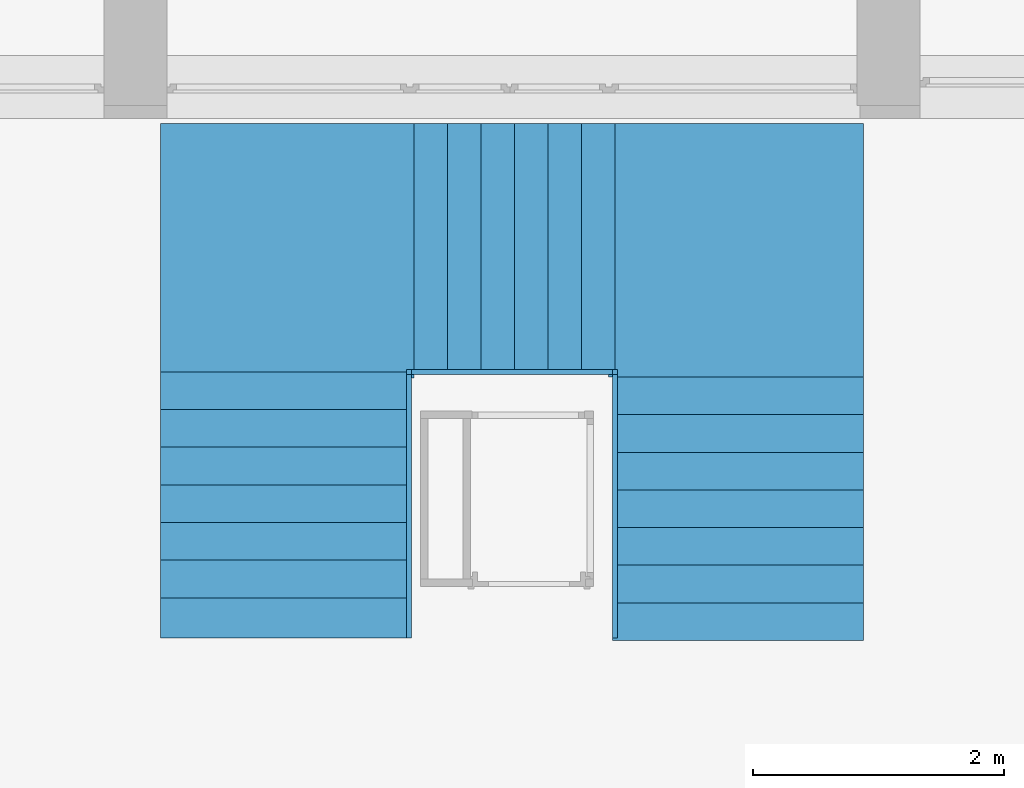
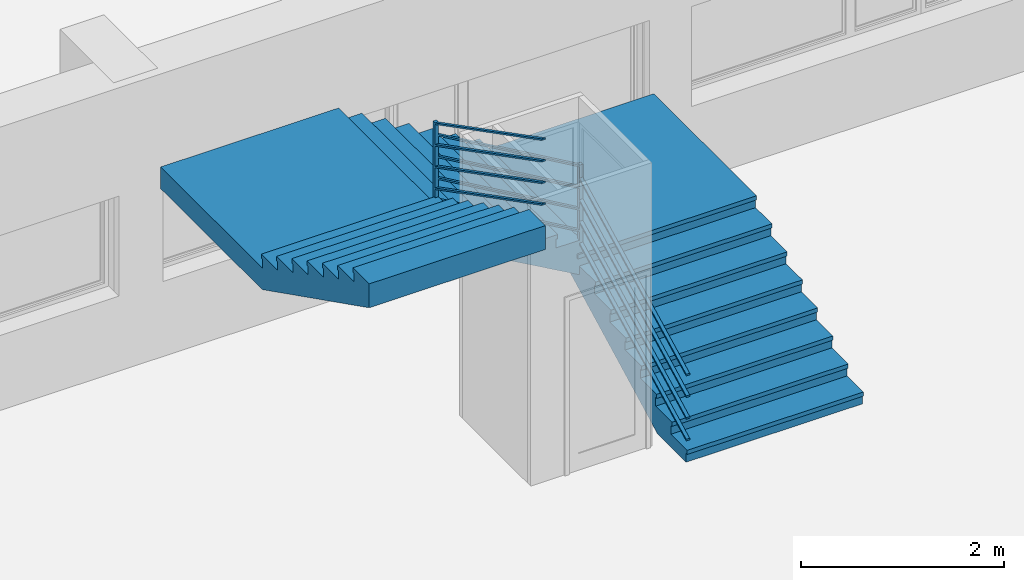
# One storey, part 28 of 36: 1 stair.
"""IFC2X3 building model written with IfcOpenShell, lengths in millimetres."""

from ifc_helpers import new_model, entity, si_unit, converted_unit, money_unit, direction, frame, origin_with_axes, place, context, subcontext, project, spatial, faceted_brep, material, element, save


model = new_model("IFC2X3")

# Units and contexts
model_context = context("Model", 3, precision=1e-05, world=origin_with_axes(), true_north=direction((0.0, 1.0)))
body_context = subcontext(model_context, "Body", "Model", "MODEL_VIEW")
ifc_project = project(units=[si_unit("LENGTHUNIT", "METRE", prefix="MILLI"), si_unit("AREAUNIT", "SQUARE_METRE"), si_unit("VOLUMEUNIT", "CUBIC_METRE"), converted_unit("PLANEANGLEUNIT", "DEGREE", entity("IfcPlaneAngleMeasure", 0.0174532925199), si_unit("PLANEANGLEUNIT", "RADIAN"), dimensions=[0, 0, 0, 0, 0, 0, 0]), si_unit("SOLIDANGLEUNIT", "STERADIAN"), money_unit("USD"), converted_unit("TIMEUNIT", "Year", entity("IfcTimeMeasure", 31556926.0), si_unit("TIMEUNIT", "SECOND"), dimensions=[0, 0, 0, 0, 0, 0, 0]), si_unit("MASSUNIT", "GRAM"), si_unit("THERMODYNAMICTEMPERATUREUNIT", "DEGREE_CELSIUS"), si_unit("LUMINOUSINTENSITYUNIT", "LUMEN")], contexts=[model_context])

# Site, building, storey
site_placement = place(None, origin_with_axes())
site = spatial("IfcSite", under=ifc_project, at=site_placement, Name="Site", CompositionType="ELEMENT")
building_placement = place(site_placement, origin_with_axes())
building = spatial("IfcBuilding", under=site, at=building_placement, Name="Building", CompositionType="ELEMENT")
storey_placement = place(building_placement, frame((0.0, 0.0, -3400.0), z_axis=(0.0, 0.0, 1.0), x_axis=(1.0, 0.0, 0.0)))
storey = spatial("IfcBuildingStorey", under=building, at=storey_placement, Name="1KORRUS", CompositionType="ELEMENT", Elevation=-3400.0)

# Stair
ifc_material = material(Name="25 %")
stair_placement = place(storey_placement, frame((-6340.29670331, -9280.64352695, 0.0), z_axis=(0.0, 0.0, 1.0), x_axis=(1.0, 0.0, 0.0)))
element("IfcStair", 1, at=stair_placement, inside=storey, material=ifc_material, Name="TRE3", ObjectType="TRE3", ShapeType="NOTDEFINED", context=body_context, shape_type="Brep", body=[
    faceted_brep([(0.0, 567.739, 0.0), (-2000.0, 567.739, 0.0), (-2000.0, 2450.912, 976.364), (0.0, 2450.912, 976.364), (0.0, 30.0, 0.0), (-2000.0, 30.0, 0.0), (-2000.0, 30.0, 104.545), (-2000.0, 330.0, 104.545), (-2000.0, 330.0, 259.091), (-2000.0, 630.0, 259.091), (-2000.0, 630.0, 413.636), (-2000.0, 930.0, 413.636), (-2000.0, 930.0, 568.182), (-2000.0, 1230.0, 568.182), (-2000.0, 1230.0, 722.727), (-2000.0, 1530.0, 722.727), (-2000.0, 1530.0, 877.273), (-2000.0, 1830.0, 877.273), (-2000.0, 1830.0, 1031.818), (-2000.0, 2130.0, 1031.818), (-2000.0, 2130.0, 976.364), (0.0, 2130.0, 976.364), (0.0, 2130.0, 1031.818), (0.0, 1830.0, 1031.818), (0.0, 1830.0, 877.273), (0.0, 1530.0, 877.273), (0.0, 1530.0, 722.727), (0.0, 1230.0, 722.727), (0.0, 1230.0, 568.182), (0.0, 930.0, 568.182), (0.0, 930.0, 413.636), (0.0, 630.0, 413.636), (0.0, 630.0, 259.091), (0.0, 330.0, 259.091), (0.0, 330.0, 104.545), (0.0, 30.0, 104.545)], [[[0, 1, 2, 3]], [[4, 5, 1, 0]], [[1, 5, 6, 7, 8, 9, 10, 11, 12, 13, 14, 15, 16, 17, 18, 19, 20, 2]], [[3, 2, 20, 21]], [[0, 3, 21, 22, 23, 24, 25, 26, 27, 28, 29, 30, 31, 32, 33, 34, 35, 4]], [[35, 6, 5, 4]], [[34, 7, 6, 35]], [[33, 8, 7, 34]], [[32, 9, 8, 33]], [[31, 10, 9, 32]], [[30, 11, 10, 31]], [[29, 12, 11, 30]], [[28, 13, 12, 29]], [[27, 14, 13, 28]], [[26, 15, 14, 27]], [[25, 16, 15, 26]], [[24, 17, 16, 25]], [[23, 18, 17, 24]], [[22, 19, 18, 23]], [[21, 20, 19, 22]]]),
    faceted_brep([(0.0, 0.0, 0.0), (-2000.0, 0.0, 0.0), (-2000.0, 30.0, 0.0), (0.0, 30.0, 0.0), (0.0, 0.0, 104.545), (-2000.0, 0.0, 104.545), (-2000.0, 30.0, 104.545), (0.0, 30.0, 104.545)], [[[0, 1, 2, 3]], [[4, 5, 1, 0]], [[1, 5, 6, 2]], [[3, 2, 6, 7]], [[0, 3, 7, 4]], [[7, 6, 5, 4]]]),
    faceted_brep([(0.0, 300.0, 154.545), (-2000.0, 300.0, 154.545), (-2000.0, 330.0, 154.545), (0.0, 330.0, 154.545), (0.0, 300.0, 259.091), (-2000.0, 300.0, 259.091), (-2000.0, 330.0, 259.091), (0.0, 330.0, 259.091)], [[[0, 1, 2, 3]], [[4, 5, 1, 0]], [[1, 5, 6, 2]], [[3, 2, 6, 7]], [[0, 3, 7, 4]], [[7, 6, 5, 4]]]),
    faceted_brep([(0.0, 600.0, 309.091), (-2000.0, 600.0, 309.091), (-2000.0, 630.0, 309.091), (0.0, 630.0, 309.091), (0.0, 600.0, 413.636), (-2000.0, 600.0, 413.636), (-2000.0, 630.0, 413.636), (0.0, 630.0, 413.636)], [[[0, 1, 2, 3]], [[4, 5, 1, 0]], [[1, 5, 6, 2]], [[3, 2, 6, 7]], [[0, 3, 7, 4]], [[7, 6, 5, 4]]]),
    faceted_brep([(0.0, 900.0, 463.636), (-2000.0, 900.0, 463.636), (-2000.0, 930.0, 463.636), (0.0, 930.0, 463.636), (0.0, 900.0, 568.182), (-2000.0, 900.0, 568.182), (-2000.0, 930.0, 568.182), (0.0, 930.0, 568.182)], [[[0, 1, 2, 3]], [[4, 5, 1, 0]], [[1, 5, 6, 2]], [[3, 2, 6, 7]], [[0, 3, 7, 4]], [[7, 6, 5, 4]]]),
    faceted_brep([(0.0, 1200.0, 618.182), (-2000.0, 1200.0, 618.182), (-2000.0, 1230.0, 618.182), (0.0, 1230.0, 618.182), (0.0, 1200.0, 722.727), (-2000.0, 1200.0, 722.727), (-2000.0, 1230.0, 722.727), (0.0, 1230.0, 722.727)], [[[0, 1, 2, 3]], [[4, 5, 1, 0]], [[1, 5, 6, 2]], [[3, 2, 6, 7]], [[0, 3, 7, 4]], [[7, 6, 5, 4]]]),
    faceted_brep([(0.0, 1500.0, 772.727), (-2000.0, 1500.0, 772.727), (-2000.0, 1530.0, 772.727), (0.0, 1530.0, 772.727), (0.0, 1500.0, 877.273), (-2000.0, 1500.0, 877.273), (-2000.0, 1530.0, 877.273), (0.0, 1530.0, 877.273)], [[[0, 1, 2, 3]], [[4, 5, 1, 0]], [[1, 5, 6, 2]], [[3, 2, 6, 7]], [[0, 3, 7, 4]], [[7, 6, 5, 4]]]),
    faceted_brep([(0.0, 1800.0, 927.273), (-2000.0, 1800.0, 927.273), (-2000.0, 1830.0, 927.273), (0.0, 1830.0, 927.273), (0.0, 1800.0, 1031.818), (-2000.0, 1800.0, 1031.818), (-2000.0, 1830.0, 1031.818), (0.0, 1830.0, 1031.818)], [[[0, 1, 2, 3]], [[4, 5, 1, 0]], [[1, 5, 6, 2]], [[3, 2, 6, 7]], [[0, 3, 7, 4]], [[7, 6, 5, 4]]]),
    faceted_brep([(0.0, 2100.0, 1081.818), (-2000.0, 2100.0, 1081.818), (-2000.0, 2130.0, 1081.818), (0.0, 2130.0, 1081.818), (0.0, 2100.0, 1186.364), (-2000.0, 2100.0, 1186.364), (-2000.0, 2130.0, 1186.364), (0.0, 2130.0, 1186.364)], [[[0, 1, 2, 3]], [[4, 5, 1, 0]], [[1, 5, 6, 2]], [[3, 2, 6, 7]], [[0, 3, 7, 4]], [[7, 6, 5, 4]]]),
    faceted_brep([(0.0, 2130.0, 976.364), (0.0, 2130.0, 1031.818), (-2000.0, 2130.0, 1031.818), (-2000.0, 2130.0, 976.364), (0.0, 2450.912, 976.364), (0.0, 2450.912, 1031.818), (0.0, 4100.0, 1031.818), (-2000.0, 4100.0, 1031.818), (-2000.0, 2450.912, 1031.818), (-2000.0, 2450.912, 976.364), (-2000.0, 4100.0, 976.364), (0.0, 4100.0, 976.364)], [[[0, 1, 2, 3]], [[4, 5, 1, 0]], [[1, 5, 6, 7, 8, 2]], [[3, 2, 8, 9]], [[0, 3, 9, 10, 11, 4]], [[11, 6, 5, 4]], [[10, 7, 6, 11]], [[9, 8, 7, 10]]]),
    faceted_brep([(0.0, 2130.0, 1031.818), (0.0, 2130.0, 1186.364), (-2000.0, 2130.0, 1186.364), (-2000.0, 2130.0, 1031.818), (0.0, 4100.0, 1031.818), (0.0, 4100.0, 1186.364), (-2000.0, 4100.0, 1186.364), (-2000.0, 4100.0, 1031.818)], [[[0, 1, 2, 3]], [[4, 5, 1, 0]], [[1, 5, 6, 2]], [[3, 2, 6, 7]], [[0, 3, 7, 4]], [[7, 6, 5, 4]]]),
    faceted_brep([(-3917.578, 4100.0, 2058.182), (-3917.578, 2100.0, 2058.182), (-3630.0, 2100.0, 2058.182), (-3630.0, 4100.0, 2058.182), (-2000.0, 4100.0, 976.364), (-2000.0, 2100.0, 976.364), (-2000.0, 2100.0, 1186.364), (-2030.0, 2100.0, 1186.364), (-2030.0, 2100.0, 1340.909), (-2296.667, 2100.0, 1340.909), (-2296.667, 2100.0, 1495.455), (-2563.333, 2100.0, 1495.455), (-2563.333, 2100.0, 1650.0), (-2830.0, 2100.0, 1650.0), (-2830.0, 2100.0, 1804.545), (-3096.667, 2100.0, 1804.545), (-3096.667, 2100.0, 1959.091), (-3363.333, 2100.0, 1959.091), (-3363.333, 2100.0, 2113.636), (-3630.0, 2100.0, 2113.636), (-3630.0, 4100.0, 2113.636), (-3363.333, 4100.0, 2113.636), (-3363.333, 4100.0, 1959.091), (-3096.667, 4100.0, 1959.091), (-3096.667, 4100.0, 1804.545), (-2830.0, 4100.0, 1804.545), (-2830.0, 4100.0, 1650.0), (-2563.333, 4100.0, 1650.0), (-2563.333, 4100.0, 1495.455), (-2296.667, 4100.0, 1495.455), (-2296.667, 4100.0, 1340.909), (-2030.0, 4100.0, 1340.909), (-2030.0, 4100.0, 1186.364), (-2000.0, 4100.0, 1186.364)], [[[0, 1, 2, 3]], [[4, 5, 1, 0]], [[1, 5, 6, 7, 8, 9, 10, 11, 12, 13, 14, 15, 16, 17, 18, 19, 2]], [[3, 2, 19, 20]], [[0, 3, 20, 21, 22, 23, 24, 25, 26, 27, 28, 29, 30, 31, 32, 33, 4]], [[33, 6, 5, 4]], [[32, 7, 6, 33]], [[31, 8, 7, 32]], [[30, 9, 8, 31]], [[29, 10, 9, 30]], [[28, 11, 10, 29]], [[27, 12, 11, 28]], [[26, 13, 12, 27]], [[25, 14, 13, 26]], [[24, 15, 14, 25]], [[23, 16, 15, 24]], [[22, 17, 16, 23]], [[21, 18, 17, 22]], [[20, 19, 18, 21]]]),
    faceted_brep([(-2000.0, 4100.0, 1236.364), (-2000.0, 2100.0, 1236.364), (-2030.0, 2100.0, 1236.364), (-2030.0, 4100.0, 1236.364), (-2000.0, 4100.0, 1340.909), (-2000.0, 2100.0, 1340.909), (-2030.0, 2100.0, 1340.909), (-2030.0, 4100.0, 1340.909)], [[[0, 1, 2, 3]], [[4, 5, 1, 0]], [[1, 5, 6, 2]], [[3, 2, 6, 7]], [[0, 3, 7, 4]], [[7, 6, 5, 4]]]),
    faceted_brep([(-2266.667, 4100.0, 1390.909), (-2266.667, 2100.0, 1390.909), (-2296.667, 2100.0, 1390.909), (-2296.667, 4100.0, 1390.909), (-2266.667, 4100.0, 1495.455), (-2266.667, 2100.0, 1495.455), (-2296.667, 2100.0, 1495.455), (-2296.667, 4100.0, 1495.455)], [[[0, 1, 2, 3]], [[4, 5, 1, 0]], [[1, 5, 6, 2]], [[3, 2, 6, 7]], [[0, 3, 7, 4]], [[7, 6, 5, 4]]]),
    faceted_brep([(-2533.333, 4100.0, 1545.455), (-2533.333, 2100.0, 1545.455), (-2563.333, 2100.0, 1545.455), (-2563.333, 4100.0, 1545.455), (-2533.333, 4100.0, 1650.0), (-2533.333, 2100.0, 1650.0), (-2563.333, 2100.0, 1650.0), (-2563.333, 4100.0, 1650.0)], [[[0, 1, 2, 3]], [[4, 5, 1, 0]], [[1, 5, 6, 2]], [[3, 2, 6, 7]], [[0, 3, 7, 4]], [[7, 6, 5, 4]]]),
    faceted_brep([(-2800.0, 4100.0, 1700.0), (-2800.0, 2100.0, 1700.0), (-2830.0, 2100.0, 1700.0), (-2830.0, 4100.0, 1700.0), (-2800.0, 4100.0, 1804.545), (-2800.0, 2100.0, 1804.545), (-2830.0, 2100.0, 1804.545), (-2830.0, 4100.0, 1804.545)], [[[0, 1, 2, 3]], [[4, 5, 1, 0]], [[1, 5, 6, 2]], [[3, 2, 6, 7]], [[0, 3, 7, 4]], [[7, 6, 5, 4]]]),
    faceted_brep([(-3066.667, 4100.0, 1854.545), (-3066.667, 2100.0, 1854.545), (-3096.667, 2100.0, 1854.545), (-3096.667, 4100.0, 1854.545), (-3066.667, 4100.0, 1959.091), (-3066.667, 2100.0, 1959.091), (-3096.667, 2100.0, 1959.091), (-3096.667, 4100.0, 1959.091)], [[[0, 1, 2, 3]], [[4, 5, 1, 0]], [[1, 5, 6, 2]], [[3, 2, 6, 7]], [[0, 3, 7, 4]], [[7, 6, 5, 4]]]),
    faceted_brep([(-3333.333, 4100.0, 2009.091), (-3333.333, 2100.0, 2009.091), (-3363.333, 2100.0, 2009.091), (-3363.333, 4100.0, 2009.091), (-3333.333, 4100.0, 2113.636), (-3333.333, 2100.0, 2113.636), (-3363.333, 2100.0, 2113.636), (-3363.333, 4100.0, 2113.636)], [[[0, 1, 2, 3]], [[4, 5, 1, 0]], [[1, 5, 6, 2]], [[3, 2, 6, 7]], [[0, 3, 7, 4]], [[7, 6, 5, 4]]]),
    faceted_brep([(-3600.0, 4100.0, 2163.636), (-3600.0, 2100.0, 2163.636), (-3630.0, 2100.0, 2163.636), (-3630.0, 4100.0, 2163.636), (-3600.0, 4100.0, 2268.182), (-3600.0, 2100.0, 2268.182), (-3630.0, 2100.0, 2268.182), (-3630.0, 4100.0, 2268.182)], [[[0, 1, 2, 3]], [[4, 5, 1, 0]], [[1, 5, 6, 2]], [[3, 2, 6, 7]], [[0, 3, 7, 4]], [[7, 6, 5, 4]]]),
    faceted_brep([(-3630.0, 4100.0, 2058.182), (-3630.0, 4100.0, 2113.636), (-3630.0, 2100.0, 2113.636), (-3630.0, 2100.0, 2058.182), (-3900.0, 4100.0, 2058.182), (-3900.0, 4100.0, 2113.636), (-5600.0, 4100.0, 2113.636), (-5600.0, 2100.0, 2113.636), (-3900.0, 2100.0, 2113.636), (-3900.0, 2100.0, 2058.182), (-5600.0, 2100.0, 2058.182), (-5600.0, 4100.0, 2058.182)], [[[0, 1, 2, 3]], [[4, 5, 1, 0]], [[1, 5, 6, 7, 8, 2]], [[3, 2, 8, 9]], [[0, 3, 9, 10, 11, 4]], [[11, 6, 5, 4]], [[10, 7, 6, 11]], [[9, 8, 7, 10]]]),
    faceted_brep([(-3630.0, 4100.0, 2113.636), (-3630.0, 4100.0, 2268.182), (-3630.0, 2100.0, 2268.182), (-3630.0, 2100.0, 2113.636), (-5600.0, 4100.0, 2113.636), (-5600.0, 4100.0, 2268.182), (-5600.0, 2100.0, 2268.182), (-5600.0, 2100.0, 2113.636)], [[[0, 1, 2, 3]], [[4, 5, 1, 0]], [[1, 5, 6, 2]], [[3, 2, 6, 7]], [[0, 3, 7, 4]], [[7, 6, 5, 4]]]),
    faceted_brep([(-5600.0, 0.0, 3113.773), (-3600.0, 0.0, 3113.773), (-3600.0, 0.0, 3350.0), (-5600.0, 0.0, 3350.0), (-5600.0, 2100.0, 2058.182), (-3600.0, 2100.0, 2058.182), (-3600.0, 2100.0, 2268.182), (-3600.0, 2070.0, 2268.182), (-3600.0, 2070.0, 2422.727), (-3600.0, 1770.0, 2422.727), (-3600.0, 1770.0, 2577.273), (-3600.0, 1470.0, 2577.273), (-3600.0, 1470.0, 2731.818), (-3600.0, 1170.0, 2731.818), (-3600.0, 1170.0, 2886.364), (-3600.0, 870.0, 2886.364), (-3600.0, 870.0, 3040.909), (-3600.0, 570.0, 3040.909), (-3600.0, 570.0, 3195.455), (-3600.0, 270.0, 3195.455), (-3600.0, 270.0, 3350.0), (-5600.0, 270.0, 3350.0), (-5600.0, 270.0, 3195.455), (-5600.0, 570.0, 3195.455), (-5600.0, 570.0, 3040.909), (-5600.0, 870.0, 3040.909), (-5600.0, 870.0, 2886.364), (-5600.0, 1170.0, 2886.364), (-5600.0, 1170.0, 2731.818), (-5600.0, 1470.0, 2731.818), (-5600.0, 1470.0, 2577.273), (-5600.0, 1770.0, 2577.273), (-5600.0, 1770.0, 2422.727), (-5600.0, 2070.0, 2422.727), (-5600.0, 2070.0, 2268.182), (-5600.0, 2100.0, 2268.182)], [[[0, 1, 2, 3]], [[4, 5, 1, 0]], [[1, 5, 6, 7, 8, 9, 10, 11, 12, 13, 14, 15, 16, 17, 18, 19, 20, 2]], [[3, 2, 20, 21]], [[0, 3, 21, 22, 23, 24, 25, 26, 27, 28, 29, 30, 31, 32, 33, 34, 35, 4]], [[35, 6, 5, 4]], [[34, 7, 6, 35]], [[33, 8, 7, 34]], [[32, 9, 8, 33]], [[31, 10, 9, 32]], [[30, 11, 10, 31]], [[29, 12, 11, 30]], [[28, 13, 12, 29]], [[27, 14, 13, 28]], [[26, 15, 14, 27]], [[25, 16, 15, 26]], [[24, 17, 16, 25]], [[23, 18, 17, 24]], [[22, 19, 18, 23]], [[21, 20, 19, 22]]]),
    faceted_brep([(-5600.0, 2100.0, 2318.182), (-3600.0, 2100.0, 2318.182), (-3600.0, 2070.0, 2318.182), (-5600.0, 2070.0, 2318.182), (-5600.0, 2100.0, 2422.727), (-3600.0, 2100.0, 2422.727), (-3600.0, 2070.0, 2422.727), (-5600.0, 2070.0, 2422.727)], [[[0, 1, 2, 3]], [[4, 5, 1, 0]], [[1, 5, 6, 2]], [[3, 2, 6, 7]], [[0, 3, 7, 4]], [[7, 6, 5, 4]]]),
    faceted_brep([(-5600.0, 1800.0, 2472.727), (-3600.0, 1800.0, 2472.727), (-3600.0, 1770.0, 2472.727), (-5600.0, 1770.0, 2472.727), (-5600.0, 1800.0, 2577.273), (-3600.0, 1800.0, 2577.273), (-3600.0, 1770.0, 2577.273), (-5600.0, 1770.0, 2577.273)], [[[0, 1, 2, 3]], [[4, 5, 1, 0]], [[1, 5, 6, 2]], [[3, 2, 6, 7]], [[0, 3, 7, 4]], [[7, 6, 5, 4]]]),
    faceted_brep([(-5600.0, 1500.0, 2627.273), (-3600.0, 1500.0, 2627.273), (-3600.0, 1470.0, 2627.273), (-5600.0, 1470.0, 2627.273), (-5600.0, 1500.0, 2731.818), (-3600.0, 1500.0, 2731.818), (-3600.0, 1470.0, 2731.818), (-5600.0, 1470.0, 2731.818)], [[[0, 1, 2, 3]], [[4, 5, 1, 0]], [[1, 5, 6, 2]], [[3, 2, 6, 7]], [[0, 3, 7, 4]], [[7, 6, 5, 4]]]),
    faceted_brep([(-5600.0, 1200.0, 2781.818), (-3600.0, 1200.0, 2781.818), (-3600.0, 1170.0, 2781.818), (-5600.0, 1170.0, 2781.818), (-5600.0, 1200.0, 2886.364), (-3600.0, 1200.0, 2886.364), (-3600.0, 1170.0, 2886.364), (-5600.0, 1170.0, 2886.364)], [[[0, 1, 2, 3]], [[4, 5, 1, 0]], [[1, 5, 6, 2]], [[3, 2, 6, 7]], [[0, 3, 7, 4]], [[7, 6, 5, 4]]]),
    faceted_brep([(-5600.0, 900.0, 2936.364), (-3600.0, 900.0, 2936.364), (-3600.0, 870.0, 2936.364), (-5600.0, 870.0, 2936.364), (-5600.0, 900.0, 3040.909), (-3600.0, 900.0, 3040.909), (-3600.0, 870.0, 3040.909), (-5600.0, 870.0, 3040.909)], [[[0, 1, 2, 3]], [[4, 5, 1, 0]], [[1, 5, 6, 2]], [[3, 2, 6, 7]], [[0, 3, 7, 4]], [[7, 6, 5, 4]]]),
    faceted_brep([(-5600.0, 600.0, 3090.909), (-3600.0, 600.0, 3090.909), (-3600.0, 570.0, 3090.909), (-5600.0, 570.0, 3090.909), (-5600.0, 600.0, 3195.455), (-3600.0, 600.0, 3195.455), (-3600.0, 570.0, 3195.455), (-5600.0, 570.0, 3195.455)], [[[0, 1, 2, 3]], [[4, 5, 1, 0]], [[1, 5, 6, 2]], [[3, 2, 6, 7]], [[0, 3, 7, 4]], [[7, 6, 5, 4]]]),
    faceted_brep([(-5600.0, 300.0, 3245.455), (-3600.0, 300.0, 3245.455), (-3600.0, 270.0, 3245.455), (-5600.0, 270.0, 3245.455), (-5600.0, 300.0, 3350.0), (-3600.0, 300.0, 3350.0), (-3600.0, 270.0, 3350.0), (-5600.0, 270.0, 3350.0)], [[[0, 1, 2, 3]], [[4, 5, 1, 0]], [[1, 5, 6, 2]], [[3, 2, 6, 7]], [[0, 3, 7, 4]], [[7, 6, 5, 4]]]),
    faceted_brep([(-2000.0, -20.0, 104.545), (-2000.0, 330.0, 104.545), (0.0, 330.0, 104.545), (0.0, -20.0, 104.545), (-2000.0, -20.0, 154.545), (-2000.0, 330.0, 154.545), (0.0, 330.0, 154.545), (0.0, -20.0, 154.545)], [[[0, 1, 2, 3]], [[0, 4, 5, 1]], [[1, 5, 6, 2]], [[2, 6, 7, 3]], [[3, 7, 4, 0]], [[7, 6, 5, 4]]]),
    faceted_brep([(-2000.0, 280.0, 259.091), (-2000.0, 630.0, 259.091), (0.0, 630.0, 259.091), (0.0, 280.0, 259.091), (-2000.0, 280.0, 309.091), (-2000.0, 630.0, 309.091), (0.0, 630.0, 309.091), (0.0, 280.0, 309.091)], [[[0, 1, 2, 3]], [[0, 4, 5, 1]], [[1, 5, 6, 2]], [[2, 6, 7, 3]], [[3, 7, 4, 0]], [[7, 6, 5, 4]]]),
    faceted_brep([(-2000.0, 580.0, 413.636), (-2000.0, 930.0, 413.636), (0.0, 930.0, 413.636), (0.0, 580.0, 413.636), (-2000.0, 580.0, 463.636), (-2000.0, 930.0, 463.636), (0.0, 930.0, 463.636), (0.0, 580.0, 463.636)], [[[0, 1, 2, 3]], [[0, 4, 5, 1]], [[1, 5, 6, 2]], [[2, 6, 7, 3]], [[3, 7, 4, 0]], [[7, 6, 5, 4]]]),
    faceted_brep([(-2000.0, 880.0, 568.182), (-2000.0, 1230.0, 568.182), (0.0, 1230.0, 568.182), (0.0, 880.0, 568.182), (-2000.0, 880.0, 618.182), (-2000.0, 1230.0, 618.182), (0.0, 1230.0, 618.182), (0.0, 880.0, 618.182)], [[[0, 1, 2, 3]], [[0, 4, 5, 1]], [[1, 5, 6, 2]], [[2, 6, 7, 3]], [[3, 7, 4, 0]], [[7, 6, 5, 4]]]),
    faceted_brep([(-2000.0, 1180.0, 722.727), (-2000.0, 1530.0, 722.727), (0.0, 1530.0, 722.727), (0.0, 1180.0, 722.727), (-2000.0, 1180.0, 772.727), (-2000.0, 1530.0, 772.727), (0.0, 1530.0, 772.727), (0.0, 1180.0, 772.727)], [[[0, 1, 2, 3]], [[0, 4, 5, 1]], [[1, 5, 6, 2]], [[2, 6, 7, 3]], [[3, 7, 4, 0]], [[7, 6, 5, 4]]]),
    faceted_brep([(-2000.0, 1480.0, 877.273), (-2000.0, 1830.0, 877.273), (0.0, 1830.0, 877.273), (0.0, 1480.0, 877.273), (-2000.0, 1480.0, 927.273), (-2000.0, 1830.0, 927.273), (0.0, 1830.0, 927.273), (0.0, 1480.0, 927.273)], [[[0, 1, 2, 3]], [[0, 4, 5, 1]], [[1, 5, 6, 2]], [[2, 6, 7, 3]], [[3, 7, 4, 0]], [[7, 6, 5, 4]]]),
    faceted_brep([(-2000.0, 1780.0, 1031.818), (-2000.0, 2130.0, 1031.818), (0.0, 2130.0, 1031.818), (0.0, 1780.0, 1031.818), (-2000.0, 1780.0, 1081.818), (-2000.0, 2130.0, 1081.818), (0.0, 2130.0, 1081.818), (0.0, 1780.0, 1081.818)], [[[0, 1, 2, 3]], [[0, 4, 5, 1]], [[1, 5, 6, 2]], [[2, 6, 7, 3]], [[3, 7, 4, 0]], [[7, 6, 5, 4]]]),
    faceted_brep([(-2030.0, 2080.0, 1186.364), (-2030.0, 4100.0, 1186.364), (0.0, 4100.0, 1186.364), (0.0, 2080.0, 1186.364), (-2030.0, 2080.0, 1236.364), (-2030.0, 4100.0, 1236.364), (0.0, 4100.0, 1236.364), (0.0, 2080.0, 1236.364)], [[[0, 1, 2, 3]], [[0, 4, 5, 1]], [[1, 5, 6, 2]], [[2, 6, 7, 3]], [[3, 7, 4, 0]], [[7, 6, 5, 4]]]),
    faceted_brep([(-1980.0, 2100.0, 1340.909), (-2296.667, 2100.0, 1340.909), (-2296.667, 4100.0, 1340.909), (-1980.0, 4100.0, 1340.909), (-1980.0, 2100.0, 1390.909), (-2296.667, 2100.0, 1390.909), (-2296.667, 4100.0, 1390.909), (-1980.0, 4100.0, 1390.909)], [[[0, 1, 2, 3]], [[0, 4, 5, 1]], [[1, 5, 6, 2]], [[2, 6, 7, 3]], [[3, 7, 4, 0]], [[7, 6, 5, 4]]]),
    faceted_brep([(-2246.667, 2100.0, 1495.455), (-2563.333, 2100.0, 1495.455), (-2563.333, 4100.0, 1495.455), (-2246.667, 4100.0, 1495.455), (-2246.667, 2100.0, 1545.455), (-2563.333, 2100.0, 1545.455), (-2563.333, 4100.0, 1545.455), (-2246.667, 4100.0, 1545.455)], [[[0, 1, 2, 3]], [[0, 4, 5, 1]], [[1, 5, 6, 2]], [[2, 6, 7, 3]], [[3, 7, 4, 0]], [[7, 6, 5, 4]]]),
    faceted_brep([(-2513.333, 2100.0, 1650.0), (-2830.0, 2100.0, 1650.0), (-2830.0, 4100.0, 1650.0), (-2513.333, 4100.0, 1650.0), (-2513.333, 2100.0, 1700.0), (-2830.0, 2100.0, 1700.0), (-2830.0, 4100.0, 1700.0), (-2513.333, 4100.0, 1700.0)], [[[0, 1, 2, 3]], [[0, 4, 5, 1]], [[1, 5, 6, 2]], [[2, 6, 7, 3]], [[3, 7, 4, 0]], [[7, 6, 5, 4]]]),
    faceted_brep([(-2780.0, 2100.0, 1804.545), (-3096.667, 2100.0, 1804.545), (-3096.667, 4100.0, 1804.545), (-2780.0, 4100.0, 1804.545), (-2780.0, 2100.0, 1854.545), (-3096.667, 2100.0, 1854.545), (-3096.667, 4100.0, 1854.545), (-2780.0, 4100.0, 1854.545)], [[[0, 1, 2, 3]], [[0, 4, 5, 1]], [[1, 5, 6, 2]], [[2, 6, 7, 3]], [[3, 7, 4, 0]], [[7, 6, 5, 4]]]),
    faceted_brep([(-3046.667, 2100.0, 1959.091), (-3363.333, 2100.0, 1959.091), (-3363.333, 4100.0, 1959.091), (-3046.667, 4100.0, 1959.091), (-3046.667, 2100.0, 2009.091), (-3363.333, 2100.0, 2009.091), (-3363.333, 4100.0, 2009.091), (-3046.667, 4100.0, 2009.091)], [[[0, 1, 2, 3]], [[0, 4, 5, 1]], [[1, 5, 6, 2]], [[2, 6, 7, 3]], [[3, 7, 4, 0]], [[7, 6, 5, 4]]]),
    faceted_brep([(-3313.333, 2100.0, 2113.636), (-3630.0, 2100.0, 2113.636), (-3630.0, 4100.0, 2113.636), (-3313.333, 4100.0, 2113.636), (-3313.333, 2100.0, 2163.636), (-3630.0, 2100.0, 2163.636), (-3630.0, 4100.0, 2163.636), (-3313.333, 4100.0, 2163.636)], [[[0, 1, 2, 3]], [[0, 4, 5, 1]], [[1, 5, 6, 2]], [[2, 6, 7, 3]], [[3, 7, 4, 0]], [[7, 6, 5, 4]]]),
    faceted_brep([(-5600.0, 2070.0, 2268.182), (-5600.0, 4100.0, 2268.182), (-3580.0, 4100.0, 2268.182), (-3580.0, 2070.0, 2268.182), (-5600.0, 2070.0, 2318.182), (-5600.0, 4100.0, 2318.182), (-3580.0, 4100.0, 2318.182), (-3580.0, 2070.0, 2318.182)], [[[0, 1, 2, 3]], [[0, 4, 5, 1]], [[1, 5, 6, 2]], [[2, 6, 7, 3]], [[3, 7, 4, 0]], [[7, 6, 5, 4]]]),
    faceted_brep([(-3600.0, 2120.0, 2422.727), (-3600.0, 1770.0, 2422.727), (-5600.0, 1770.0, 2422.727), (-5600.0, 2120.0, 2422.727), (-3600.0, 2120.0, 2472.727), (-3600.0, 1770.0, 2472.727), (-5600.0, 1770.0, 2472.727), (-5600.0, 2120.0, 2472.727)], [[[0, 1, 2, 3]], [[0, 4, 5, 1]], [[1, 5, 6, 2]], [[2, 6, 7, 3]], [[3, 7, 4, 0]], [[7, 6, 5, 4]]]),
    faceted_brep([(-3600.0, 1820.0, 2577.273), (-3600.0, 1470.0, 2577.273), (-5600.0, 1470.0, 2577.273), (-5600.0, 1820.0, 2577.273), (-3600.0, 1820.0, 2627.273), (-3600.0, 1470.0, 2627.273), (-5600.0, 1470.0, 2627.273), (-5600.0, 1820.0, 2627.273)], [[[0, 1, 2, 3]], [[0, 4, 5, 1]], [[1, 5, 6, 2]], [[2, 6, 7, 3]], [[3, 7, 4, 0]], [[7, 6, 5, 4]]]),
    faceted_brep([(-3600.0, 1520.0, 2731.818), (-3600.0, 1170.0, 2731.818), (-5600.0, 1170.0, 2731.818), (-5600.0, 1520.0, 2731.818), (-3600.0, 1520.0, 2781.818), (-3600.0, 1170.0, 2781.818), (-5600.0, 1170.0, 2781.818), (-5600.0, 1520.0, 2781.818)], [[[0, 1, 2, 3]], [[0, 4, 5, 1]], [[1, 5, 6, 2]], [[2, 6, 7, 3]], [[3, 7, 4, 0]], [[7, 6, 5, 4]]]),
    faceted_brep([(-3600.0, 1220.0, 2886.364), (-3600.0, 870.0, 2886.364), (-5600.0, 870.0, 2886.364), (-5600.0, 1220.0, 2886.364), (-3600.0, 1220.0, 2936.364), (-3600.0, 870.0, 2936.364), (-5600.0, 870.0, 2936.364), (-5600.0, 1220.0, 2936.364)], [[[0, 1, 2, 3]], [[0, 4, 5, 1]], [[1, 5, 6, 2]], [[2, 6, 7, 3]], [[3, 7, 4, 0]], [[7, 6, 5, 4]]]),
    faceted_brep([(-3600.0, 920.0, 3040.909), (-3600.0, 570.0, 3040.909), (-5600.0, 570.0, 3040.909), (-5600.0, 920.0, 3040.909), (-3600.0, 920.0, 3090.909), (-3600.0, 570.0, 3090.909), (-5600.0, 570.0, 3090.909), (-5600.0, 920.0, 3090.909)], [[[0, 1, 2, 3]], [[0, 4, 5, 1]], [[1, 5, 6, 2]], [[2, 6, 7, 3]], [[3, 7, 4, 0]], [[7, 6, 5, 4]]]),
    faceted_brep([(-3600.0, 620.0, 3195.455), (-3600.0, 270.0, 3195.455), (-5600.0, 270.0, 3195.455), (-5600.0, 620.0, 3195.455), (-3600.0, 620.0, 3245.455), (-3600.0, 270.0, 3245.455), (-5600.0, 270.0, 3245.455), (-5600.0, 620.0, 3245.455)], [[[0, 1, 2, 3]], [[0, 4, 5, 1]], [[1, 5, 6, 2]], [[2, 6, 7, 3]], [[3, 7, 4, 0]], [[7, 6, 5, 4]]]),
    faceted_brep([(-3600.0, 320.0, 3350.0), (-3600.0, 0.0, 3350.0), (-5600.0, 0.0, 3350.0), (-5600.0, 320.0, 3350.0), (-3600.0, 320.0, 3400.0), (-3600.0, 0.0, 3400.0), (-5600.0, 0.0, 3400.0), (-5600.0, 320.0, 3400.0)], [[[0, 1, 2, 3]], [[0, 4, 5, 1]], [[1, 5, 6, 2]], [[2, 6, 7, 3]], [[3, 7, 4, 0]], [[7, 6, 5, 4]]]),
    faceted_brep([(-1960.0, 0.0, 254.545), (-2000.0, 0.0, 254.545), (-2000.0, 2100.0, 1336.364), (-1960.0, 2100.0, 1336.364), (-1960.0, 0.0, 274.545), (-2000.0, 0.0, 274.545), (-2000.0, 2100.0, 1356.364), (-1960.0, 2100.0, 1356.364)], [[[0, 1, 2, 3]], [[4, 5, 1, 0]], [[1, 5, 6, 2]], [[3, 2, 6, 7]], [[0, 3, 7, 4]], [[7, 6, 5, 4]]]),
    faceted_brep([(-1960.0, 0.0, 514.545), (-2000.0, 0.0, 514.545), (-2000.0, 2100.0, 1596.364), (-1960.0, 2100.0, 1596.364), (-1960.0, 0.0, 534.545), (-2000.0, 0.0, 534.545), (-2000.0, 2100.0, 1616.364), (-1960.0, 2100.0, 1616.364)], [[[0, 1, 2, 3]], [[4, 5, 1, 0]], [[1, 5, 6, 2]], [[3, 2, 6, 7]], [[0, 3, 7, 4]], [[7, 6, 5, 4]]]),
    faceted_brep([(-1960.0, 0.0, 774.545), (-2000.0, 0.0, 774.545), (-2000.0, 2100.0, 1856.364), (-1960.0, 2100.0, 1856.364), (-1960.0, 0.0, 794.545), (-2000.0, 0.0, 794.545), (-2000.0, 2100.0, 1876.364), (-1960.0, 2100.0, 1876.364)], [[[0, 1, 2, 3]], [[4, 5, 1, 0]], [[1, 5, 6, 2]], [[3, 2, 6, 7]], [[0, 3, 7, 4]], [[7, 6, 5, 4]]]),
    faceted_brep([(-1960.0, 0.0, 1034.545), (-2000.0, 0.0, 1034.545), (-2000.0, 2100.0, 2116.364), (-1960.0, 2100.0, 2116.364), (-1960.0, 0.0, 1054.545), (-2000.0, 0.0, 1054.545), (-2000.0, 2100.0, 2136.364), (-1960.0, 2100.0, 2136.364)], [[[0, 1, 2, 3]], [[4, 5, 1, 0]], [[1, 5, 6, 2]], [[3, 2, 6, 7]], [[0, 3, 7, 4]], [[7, 6, 5, 4]]]),
    faceted_brep([(-2000.0, 2100.0, 1236.364), (-2000.0, 2140.0, 1236.364), (-1960.0, 2140.0, 1236.364), (-1960.0, 2100.0, 1236.364), (-2000.0, 2100.0, 2290.909), (-2000.0, 2140.0, 2290.909), (-1960.0, 2140.0, 2290.909), (-1960.0, 2100.0, 2290.909)], [[[0, 1, 2, 3]], [[0, 4, 5, 1]], [[1, 5, 6, 2]], [[2, 6, 7, 3]], [[3, 7, 4, 0]], [[7, 6, 5, 4]]]),
    faceted_brep([(-2000.0, 2140.0, 1490.909), (-2000.0, 2100.0, 1490.909), (-3600.0, 2100.0, 2418.182), (-3600.0, 2140.0, 2418.182), (-2000.0, 2140.0, 1510.909), (-2000.0, 2100.0, 1510.909), (-3600.0, 2100.0, 2438.182), (-3600.0, 2140.0, 2438.182)], [[[0, 1, 2, 3]], [[4, 5, 1, 0]], [[1, 5, 6, 2]], [[3, 2, 6, 7]], [[0, 3, 7, 4]], [[7, 6, 5, 4]]]),
    faceted_brep([(-2000.0, 2140.0, 1750.909), (-2000.0, 2100.0, 1750.909), (-3600.0, 2100.0, 2678.182), (-3600.0, 2140.0, 2678.182), (-2000.0, 2140.0, 1770.909), (-2000.0, 2100.0, 1770.909), (-3600.0, 2100.0, 2698.182), (-3600.0, 2140.0, 2698.182)], [[[0, 1, 2, 3]], [[4, 5, 1, 0]], [[1, 5, 6, 2]], [[3, 2, 6, 7]], [[0, 3, 7, 4]], [[7, 6, 5, 4]]]),
    faceted_brep([(-2000.0, 2140.0, 2010.909), (-2000.0, 2100.0, 2010.909), (-3600.0, 2100.0, 2938.182), (-3600.0, 2140.0, 2938.182), (-2000.0, 2140.0, 2030.909), (-2000.0, 2100.0, 2030.909), (-3600.0, 2100.0, 2958.182), (-3600.0, 2140.0, 2958.182)], [[[0, 1, 2, 3]], [[4, 5, 1, 0]], [[1, 5, 6, 2]], [[3, 2, 6, 7]], [[0, 3, 7, 4]], [[7, 6, 5, 4]]]),
    faceted_brep([(-2000.0, 2140.0, 2270.909), (-2000.0, 2100.0, 2270.909), (-3600.0, 2100.0, 3198.182), (-3600.0, 2140.0, 3198.182), (-2000.0, 2140.0, 2290.909), (-2000.0, 2100.0, 2290.909), (-3600.0, 2100.0, 3218.182), (-3600.0, 2140.0, 3218.182)], [[[0, 1, 2, 3]], [[4, 5, 1, 0]], [[1, 5, 6, 2]], [[3, 2, 6, 7]], [[0, 3, 7, 4]], [[7, 6, 5, 4]]]),
    faceted_brep([(-3640.0, 2100.0, 2318.182), (-3640.0, 2140.0, 2318.182), (-3600.0, 2140.0, 2318.182), (-3600.0, 2100.0, 2318.182), (-3640.0, 2100.0, 3372.727), (-3640.0, 2140.0, 3372.727), (-3600.0, 2140.0, 3372.727), (-3600.0, 2100.0, 3372.727)], [[[0, 1, 2, 3]], [[0, 4, 5, 1]], [[1, 5, 6, 2]], [[2, 6, 7, 3]], [[3, 7, 4, 0]], [[7, 6, 5, 4]]]),
    faceted_brep([(-3640.0, 2100.0, 2572.727), (-3600.0, 2100.0, 2572.727), (-3600.0, 0.0, 3654.545), (-3640.0, 0.0, 3654.545), (-3640.0, 2100.0, 2592.727), (-3600.0, 2100.0, 2592.727), (-3600.0, 0.0, 3674.545), (-3640.0, 0.0, 3674.545)], [[[0, 1, 2, 3]], [[4, 5, 1, 0]], [[1, 5, 6, 2]], [[3, 2, 6, 7]], [[0, 3, 7, 4]], [[7, 6, 5, 4]]]),
    faceted_brep([(-3640.0, 2100.0, 2832.727), (-3600.0, 2100.0, 2832.727), (-3600.0, 0.0, 3914.545), (-3640.0, 0.0, 3914.545), (-3640.0, 2100.0, 2852.727), (-3600.0, 2100.0, 2852.727), (-3600.0, 0.0, 3934.545), (-3640.0, 0.0, 3934.545)], [[[0, 1, 2, 3]], [[4, 5, 1, 0]], [[1, 5, 6, 2]], [[3, 2, 6, 7]], [[0, 3, 7, 4]], [[7, 6, 5, 4]]]),
    faceted_brep([(-3640.0, 2100.0, 3092.727), (-3600.0, 2100.0, 3092.727), (-3600.0, 0.0, 4174.545), (-3640.0, 0.0, 4174.545), (-3640.0, 2100.0, 3112.727), (-3600.0, 2100.0, 3112.727), (-3600.0, 0.0, 4194.545), (-3640.0, 0.0, 4194.545)], [[[0, 1, 2, 3]], [[4, 5, 1, 0]], [[1, 5, 6, 2]], [[3, 2, 6, 7]], [[0, 3, 7, 4]], [[7, 6, 5, 4]]]),
    faceted_brep([(-3640.0, 2100.0, 3352.727), (-3600.0, 2100.0, 3352.727), (-3600.0, 0.0, 4434.545), (-3640.0, 0.0, 4434.545), (-3640.0, 2100.0, 3372.727), (-3600.0, 2100.0, 3372.727), (-3600.0, 0.0, 4454.545), (-3640.0, 0.0, 4454.545)], [[[0, 1, 2, 3]], [[4, 5, 1, 0]], [[1, 5, 6, 2]], [[3, 2, 6, 7]], [[0, 3, 7, 4]], [[7, 6, 5, 4]]]),
])

save(model, "model.ifc")
